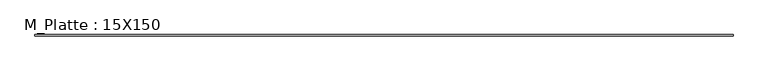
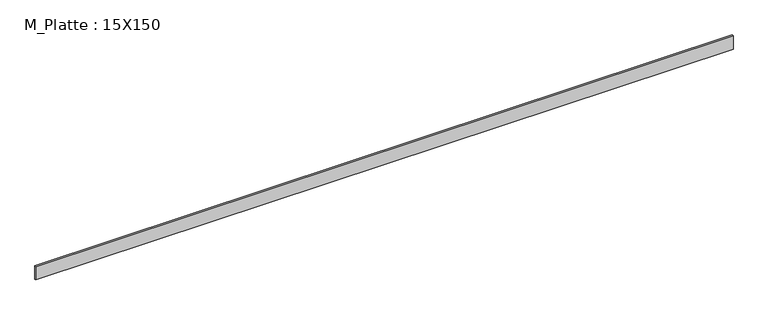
"""IFC4 building model written with IfcOpenShell, lengths in millimetres: beam geometry, M_Platte : 15X150."""

import ifcopenshell
import ifcopenshell.guid

model = None  # the IFC model being written
_history = None  # IfcOwnerHistory: only IFC2X3 demands one
_inside = {}  # id of a spatial element -> (the spatial element, [elements in it])
_under = {}  # id of a project, library or spatial element -> (it, [spatial elements below it])
_declared = {}  # id of a project -> (the project, [libraries it declares])
_typed = {}  # id of a type object -> (the type object, [elements of that type])
_made_of = {}  # id of a material, layer set ... -> (it, [elements and type objects made of it])


def new_model(schema):
    """Start an empty IFC model of exactly this schema.

    Asked for "IFC4X3", IfcOpenShell would pick the latest addendum, in which some entities
    have other attributes; the version numbers below select the first issue.
    IFC2X3 requires an IfcOwnerHistory on every rooted entity: one is made here for all.
    """
    global model, _history
    if schema == "IFC4X3":
        model = ifcopenshell.file(schema_version=(4, 3, 0, 0))
    else:
        model = ifcopenshell.file(schema=schema)
    _inside.clear()
    _under.clear()
    _declared.clear()
    _typed.clear()
    _made_of.clear()
    _history = None
    if model.schema == "IFC2X3":
        org = make("IfcOrganization", Name="unknown")
        user = make(
            "IfcPersonAndOrganization",
            ThePerson=make("IfcPerson", FamilyName="unknown"),
            TheOrganization=org,
        )
        app = make(
            "IfcApplication",
            ApplicationDeveloper=org,
            Version="unknown",
            ApplicationFullName="unknown",
            ApplicationIdentifier="unknown",
        )
        _history = make(
            "IfcOwnerHistory",
            OwningUser=user,
            OwningApplication=app,
            ChangeAction="ADDED",
            CreationDate=0,
        )
    return model


def make(cls, **values):
    """One entity of the class cls with the attributes given. An attribute that is None is left unset."""
    return model.create_entity(
        cls, **{name: value for name, value in values.items() if value is not None}
    )


def rooted(cls, **values):
    """An entity with a GlobalId (a new one), such as an element, a storey or a relation."""
    return make(cls, GlobalId=ifcopenshell.guid.new(), OwnerHistory=_history, **values)


def si_unit(unit_type, name, prefix=None):
    """IfcSIUnit, for example si_unit("LENGTHUNIT", "METRE", prefix="MILLI")."""
    return make("IfcSIUnit", UnitType=unit_type, Prefix=prefix, Name=name)


def assignment(units):
    """IfcUnitAssignment: the units of a project."""
    return None if units is None else make("IfcUnitAssignment", Units=units)


def point(xyz):
    """IfcCartesianPoint."""
    return None if xyz is None else make("IfcCartesianPoint", Coordinates=xyz)


def direction(xyz):
    """IfcDirection."""
    return None if xyz is None else make("IfcDirection", DirectionRatios=xyz)


def frame(location, z_axis=None, x_axis=None):
    """IfcAxis2Placement3D, a coordinate frame: its origin and axes. An axis left out is left unset."""
    return make(
        "IfcAxis2Placement3D",
        Location=point(location),
        Axis=direction(z_axis),
        RefDirection=direction(x_axis),
    )


def origin():
    """The frame at (0, 0, 0) with its axes left unset."""
    return frame((0.0, 0.0, 0.0))


def place(relative_to, where):
    """IfcLocalPlacement: puts the frame where relative to a parent placement (None: the world)."""
    return make(
        "IfcLocalPlacement", PlacementRelTo=relative_to, RelativePlacement=where
    )


def context(
    kind, dimensions, precision=None, world=None, true_north=None, identifier=None
):
    """IfcGeometricRepresentationContext, for example the 3D "Model" context."""
    return make(
        "IfcGeometricRepresentationContext",
        ContextIdentifier=identifier,
        ContextType=kind,
        CoordinateSpaceDimension=dimensions,
        Precision=precision,
        WorldCoordinateSystem=world,
        TrueNorth=true_north,
    )


def project(units=None, contexts=None):
    """IfcProject with its units and contexts."""
    return rooted(
        "IfcProject",
        Name="project",
        RepresentationContexts=contexts,
        UnitsInContext=assignment(units),
    )


def spatial(cls, under=None, at=None, **own):
    """A site, building, storey or space (cls), placed at a placement, below another one or the project."""
    s = rooted(cls, ObjectPlacement=at, **own)
    if under is not None:
        _under.setdefault(under.id(), (under, []))[1].append(s)
    return s


def polyline(points):
    """IfcPolyline through the points."""
    return make("IfcPolyline", Points=[point(p) for p in points])


def outline(outer, holes=None, kind="AREA"):
    """IfcArbitraryClosedProfileDef: a profile drawn as a closed curve; with holes, ...WithVoids."""
    if holes is None:
        return make("IfcArbitraryClosedProfileDef", ProfileType=kind, OuterCurve=outer)
    return make(
        "IfcArbitraryProfileDefWithVoids",
        ProfileType=kind,
        OuterCurve=outer,
        InnerCurves=holes,
    )


def extrude(swept, where, along, depth):
    """IfcExtrudedAreaSolid: the profile swept, set in the frame where, extruded along a direction by depth."""
    return make(
        "IfcExtrudedAreaSolid",
        SweptArea=swept,
        Position=where,
        ExtrudedDirection=direction(along),
        Depth=depth,
    )


def shape(context_of_items, identifier, shape_type, items):
    """IfcShapeRepresentation: the items that make up one representation, for example the "Body"."""
    return make(
        "IfcShapeRepresentation",
        ContextOfItems=context_of_items,
        RepresentationIdentifier=identifier,
        RepresentationType=shape_type,
        Items=items,
    )


def source(mapping_origin, context_of_items, identifier, shape_type, items):
    """IfcRepresentationMap: a shape defined once, which mapped items show again and again."""
    return make(
        "IfcRepresentationMap",
        MappingOrigin=mapping_origin,
        MappedRepresentation=shape(context_of_items, identifier, shape_type, items),
    )


def transform(
    local_origin,
    x_axis=None,
    y_axis=None,
    z_axis=None,
    scale=None,
    scale2=None,
    scale3=None,
    uniform=True,
):
    """IfcCartesianTransformationOperator3D, or its non-uniform kind. x_axis, y_axis, z_axis: its Axis1, 2, 3."""
    if uniform:
        return make(
            "IfcCartesianTransformationOperator3D",
            Axis1=direction(x_axis),
            Axis2=direction(y_axis),
            LocalOrigin=point(local_origin),
            Scale=scale,
            Axis3=direction(z_axis),
        )
    return make(
        "IfcCartesianTransformationOperator3DnonUniform",
        Axis1=direction(x_axis),
        Axis2=direction(y_axis),
        LocalOrigin=point(local_origin),
        Scale=scale,
        Axis3=direction(z_axis),
        Scale2=scale2,
        Scale3=scale3,
    )


def mapped(mapping_source, mapping_target):
    """IfcMappedItem: shows the shape of a source again, moved by a transform."""
    return make(
        "IfcMappedItem", MappingSource=mapping_source, MappingTarget=mapping_target
    )


def made_of(thing, what):
    """Note that an element or type object is made of a material, layer set ...; save() writes the relation."""
    if what is not None:
        _made_of.setdefault(what.id(), (what, []))[1].append(thing)
    return thing


def element(
    cls,
    number,
    at=None,
    inside=None,
    cuts=None,
    type_object=None,
    material=None,
    context=None,
    identifier="Body",
    shape_type=None,
    held_by="IfcProductDefinitionShape",
    body=None,
    shapes=None,
    **own,
):
    """One element of the class cls, such as IfcWall. Its Tag is "e" and its number.

    at: its placement. inside: the storey or other place that contains it. cuts: it is an
    opening in that element (IfcRelVoidsElement). A single representation is given by context,
    identifier, shape_type and body (its items); several are given by shapes. held_by: the class
    of the entity that holds the representations. save() writes the other relations.
    """
    e = rooted(cls, Tag="e%d" % number, ObjectPlacement=at, **own)
    if body is not None:
        shapes = [shape(context, identifier, shape_type, body)]
    if shapes is not None:
        e.Representation = make(held_by, Representations=shapes)
    if inside is not None:
        _inside.setdefault(inside.id(), (inside, []))[1].append(e)
    if cuts is not None:
        rooted(
            "IfcRelVoidsElement", RelatingBuildingElement=cuts, RelatedOpeningElement=e
        )
    if type_object is not None:
        _typed.setdefault(type_object.id(), (type_object, []))[1].append(e)
    return made_of(e, material)


def aggregate(whole, parts):
    """IfcRelAggregates: a whole, such as a stair, and the parts it consists of."""
    return rooted("IfcRelAggregates", RelatingObject=whole, RelatedObjects=parts)


def save(model, path):
    """Write the relations noted so far, then the file.

    IfcRelAggregates (storeys below a building ...), IfcRelContainedInSpatialStructure (elements
    in a storey), IfcRelDefinesByType, IfcRelAssociatesMaterial and IfcRelDeclares: one each for
    every whole, place, type object, material and project.
    """
    for whole, parts in _under.values():
        aggregate(whole, parts)
    for where, things in _inside.values():
        rooted(
            "IfcRelContainedInSpatialStructure",
            RelatedElements=things,
            RelatingStructure=where,
        )
    for kind, things in _typed.values():
        rooted("IfcRelDefinesByType", RelatedObjects=things, RelatingType=kind)
    for what, things in _made_of.values():
        rooted("IfcRelAssociatesMaterial", RelatedObjects=things, RelatingMaterial=what)
    for by, libraries in _declared.values():
        rooted("IfcRelDeclares", RelatingContext=by, RelatedDefinitions=libraries)
    model.write(path)


def m_platte_15x150_d6caa432(model_context):
    return source(origin(), model_context, "Body", "SweptSolid", [
        extrude(outline(polyline([(3636.8747012, 7.5), (3636.8747012, -7.5), (-3804.9824744, -7.5), (-3804.9824744, 7.5), (3636.8747012, 7.5)])), frame((0.0, 0.0, -75.0), z_axis=(0.0, 0.0, 1.0), x_axis=(1.0, 0.0, 0.0)), (0.0, 0.0, 1.0), 150.0),
    ])


if __name__ == "__main__":
    model = new_model("IFC4")
    model_context = context("Model", 3, world=origin())
    ifc_project = project(units=[si_unit("LENGTHUNIT", "METRE", prefix="MILLI")], contexts=[model_context])
    site = spatial("IfcSite", under=ifc_project)
    building = spatial("IfcBuilding", under=site)
    placement = place(None, origin())
    m_platte_15x150_shape = m_platte_15x150_d6caa432(model_context)
    element("IfcBeam", 1, ObjectType="M_Platte : 15X150", at=placement, inside=building, context=model_context, shape_type="MappedRepresentation", body=[
        mapped(m_platte_15x150_shape, transform((0.0, 0.0, 0.0), x_axis=(1.0, 0.0, 0.0), y_axis=(0.0, 1.0, 0.0), z_axis=(0.0, 0.0, 1.0))),
    ])
    save(model, "model.ifc")
